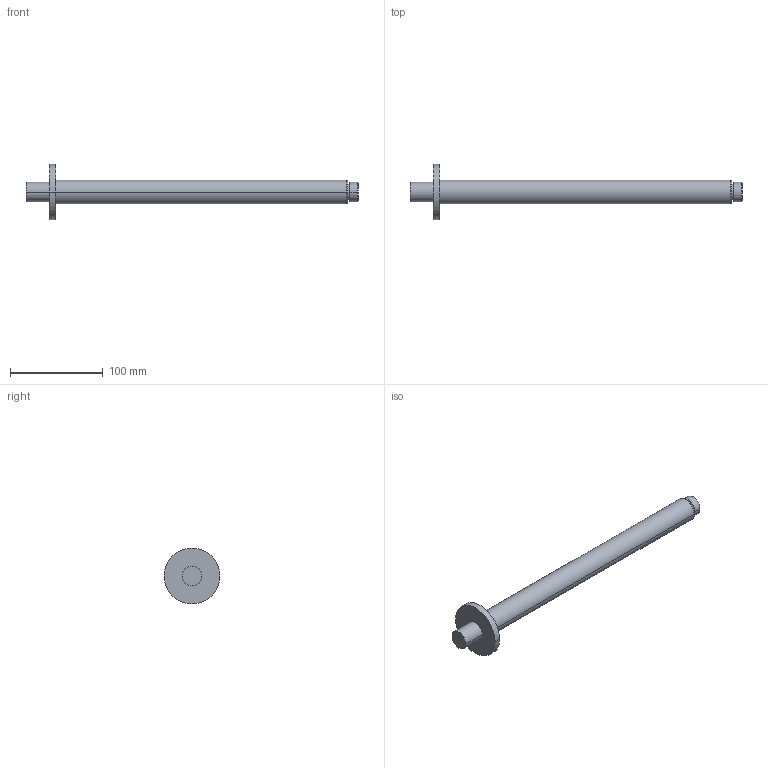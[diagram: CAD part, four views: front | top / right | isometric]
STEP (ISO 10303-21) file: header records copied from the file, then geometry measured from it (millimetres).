
FILE_DESCRIPTION((''),'2;1');
FILE_NAME('122525','2020-03-16T11:09:57',('LF994'),(''),'CREO PARAMETRIC BY PTC INC, 2018500','CREO PARAMETRIC BY PTC INC, 2018500','');
FILE_SCHEMA(('CONFIG_CONTROL_DESIGN'));
Length unit declared in the file: millimetre
Products named in the file (1): 122525
Bounding box: 357 x 60 x 60 mm (x, y, z)
Volume: 192371.9 mm3; surface area: 34587.7 mm2
Topology: 1 solids, 1 shells, 22 faces, 42 edges, 26 vertices
Faces by surface type: cylinder 12, plane 6, cone 4
Entity records: 602 total; most frequent: DIRECTION 112, CARTESIAN_POINT 90, ORIENTED_EDGE 84, AXIS2_PLACEMENT_3D 48, EDGE_CURVE 42, VERTEX_POINT 26, EDGE_LOOP 26, CIRCLE 26
